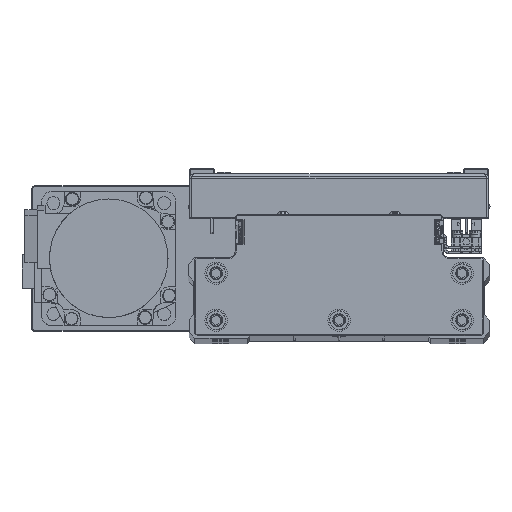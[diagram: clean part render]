
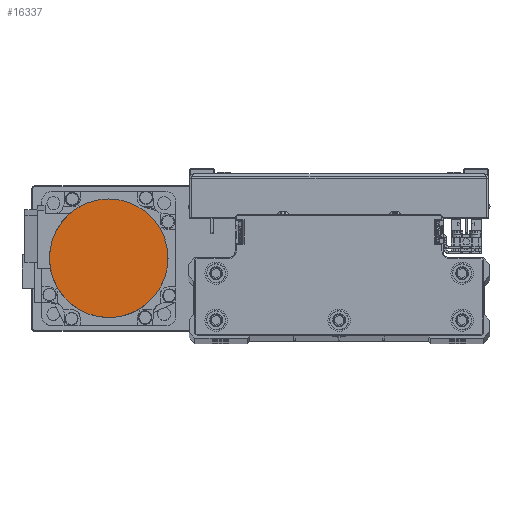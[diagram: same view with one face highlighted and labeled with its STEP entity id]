
A CAD part, top view. The second image highlights one B-rep face of the part: STEP entity #16337.
In plain terms, the highlighted planar face has unit normal (0, 0, 1) as drawn and (0, 0, -1) by its records, which use the part's own axes.
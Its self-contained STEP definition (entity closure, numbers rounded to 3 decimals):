
#959 = CARTESIAN_POINT ( 'NONE',  ( -11.744, -23.819, -109.7 ) ) ;
#1176 = CARTESIAN_POINT ( 'NONE',  ( 19.965, -17.512, -109.7 ) ) ;
#2229 = DIRECTION ( 'NONE',  ( 1., 0., 0. ) ) ;
#2549 = CARTESIAN_POINT ( 'NONE',  ( 16.165, 21.07, -109.7 ) ) ;
#2768 = CARTESIAN_POINT ( 'NONE',  ( -16.165, 21.07, -109.7 ) ) ;
#4387 = CARTESIAN_POINT ( 'NONE',  ( -17.512, -19.965, -109.7 ) ) ;
#4605 = CARTESIAN_POINT ( 'NONE',  ( 13.28, -22.998, -109.7 ) ) ;
#5656 = PLANE ( 'NONE',  #10702 ) ;
#5978 = CARTESIAN_POINT ( 'NONE',  ( 21.07, 16.165, -109.7 ) ) ;
#6206 = CARTESIAN_POINT ( 'NONE',  ( -8.539, 25.147, -109.7 ) ) ;
#6434 = CARTESIAN_POINT ( 'NONE',  ( -26.5, 0., -109.7 ) ) ;
#7834 = CARTESIAN_POINT ( 'NONE',  ( -22.998, -13.28, -109.7 ) ) ;
#8059 = CARTESIAN_POINT ( 'NONE',  ( 6.871, -25.652, -109.7 ) ) ;
#8280 = CARTESIAN_POINT ( 'NONE',  ( 26.5, -1.734, -109.7 ) ) ;
#9421 = CARTESIAN_POINT ( 'NONE',  ( 25.147, 8.539, -109.7 ) ) ;
#9645 = CARTESIAN_POINT ( 'NONE',  ( -1.734, 26.5, -109.7 ) ) ;
#9864 = CARTESIAN_POINT ( 'NONE',  ( -25.652, 6.871, -109.7 ) ) ;
#10702 = AXIS2_PLACEMENT_3D ( 'NONE', #19608, #33552, #2229 ) ;
#11257 = CARTESIAN_POINT ( 'NONE',  ( -25.652, -6.871, -109.7 ) ) ;
#11487 = CARTESIAN_POINT ( 'NONE',  ( -1.734, -26.5, -109.7 ) ) ;
#11717 = CARTESIAN_POINT ( 'NONE',  ( 25.147, -8.539, -109.7 ) ) ;
#12575 = CARTESIAN_POINT ( 'NONE',  ( 26.5, 0., -109.7 ) ) ;
#12741 = B_SPLINE_CURVE_WITH_KNOTS ( 'NONE', 3,
 ( #44138, #12857, #26788, #40726, #9421, #23365, #37312, #5978, #19929, #33870, #2549, #16501, #30432, #44367, #13088, #27013, #40959, #9645, #23583, #37530, #6206, #20151, #34100, #2768, #16731, #30661, #44595, #13310, #27233, #41179, #9864, #23809, #37758, #6434 ),
 .UNSPECIFIED., .F., .F.,
 ( 4, 2, 2, 2, 2, 2, 2, 2, 2, 2, 2, 2, 2, 2, 2, 2, 4 ),
 ( 0., 0.062, 0.125, 0.187, 0.25, 0.312, 0.375, 0.437, 0.5, 0.562, 0.625, 0.687, 0.75, 0.813, 0.875, 0.938, 1. ),
 .UNSPECIFIED. ) ;
#12857 = CARTESIAN_POINT ( 'NONE',  ( 26.5, 1.734, -109.7 ) ) ;
#13088 = CARTESIAN_POINT ( 'NONE',  ( 6.871, 25.652, -109.7 ) ) ;
#13310 = CARTESIAN_POINT ( 'NONE',  ( -22.998, 13.28, -109.7 ) ) ;
#14693 = CARTESIAN_POINT ( 'NONE',  ( -26.5, 0., -109.7 ) ) ;
#14914 = CARTESIAN_POINT ( 'NONE',  ( -8.539, -25.147, -109.7 ) ) ;
#15143 = CARTESIAN_POINT ( 'NONE',  ( 21.07, -16.165, -109.7 ) ) ;
#16337 = ADVANCED_FACE ( 'NONE', ( #36981 ), #5656, .F. ) ;
#16501 = CARTESIAN_POINT ( 'NONE',  ( 13.28, 22.998, -109.7 ) ) ;
#16731 = CARTESIAN_POINT ( 'NONE',  ( -17.512, 19.965, -109.7 ) ) ;
#16994 = CARTESIAN_POINT ( 'NONE',  ( -26.5, 0., -109.7 ) ) ;
#18347 = CARTESIAN_POINT ( 'NONE',  ( -16.165, -21.07, -109.7 ) ) ;
#18564 = CARTESIAN_POINT ( 'NONE',  ( 16.165, -21.07, -109.7 ) ) ;
#19608 = CARTESIAN_POINT ( 'NONE',  ( 0., 0., -109.7 ) ) ;
#19929 = CARTESIAN_POINT ( 'NONE',  ( 19.965, 17.512, -109.7 ) ) ;
#20151 = CARTESIAN_POINT ( 'NONE',  ( -11.744, 23.819, -109.7 ) ) ;
#21777 = CARTESIAN_POINT ( 'NONE',  ( -21.07, -16.165, -109.7 ) ) ;
#21999 = CARTESIAN_POINT ( 'NONE',  ( 8.539, -25.147, -109.7 ) ) ;
#22223 = CARTESIAN_POINT ( 'NONE',  ( 26.5, 0., -109.7 ) ) ;
#23365 = CARTESIAN_POINT ( 'NONE',  ( 23.819, 11.744, -109.7 ) ) ;
#23583 = CARTESIAN_POINT ( 'NONE',  ( -3.469, 26.329, -109.7 ) ) ;
#23809 = CARTESIAN_POINT ( 'NONE',  ( -26.329, 3.469, -109.7 ) ) ;
#25000 = VERTEX_POINT ( 'NONE', #16994 ) ;
#25199 = CARTESIAN_POINT ( 'NONE',  ( -25.147, -8.539, -109.7 ) ) ;
#25209 = B_SPLINE_CURVE_WITH_KNOTS ( 'NONE', 3,
 ( #14693, #28625, #42556, #11257, #25199, #39138, #7834, #21777, #35716, #4387, #18347, #32279, #959, #14914, #28844, #42780, #11487, #25426, #39364, #8059, #21999, #35937, #4605, #18564, #32505, #1176, #15143, #29074, #43005, #11717, #25653, #39586, #8280, #22223 ),
 .UNSPECIFIED., .F., .F.,
 ( 4, 2, 2, 2, 2, 2, 2, 2, 2, 2, 2, 2, 2, 2, 2, 2, 4 ),
 ( 0., 0.063, 0.125, 0.188, 0.25, 0.312, 0.375, 0.437, 0.5, 0.562, 0.625, 0.687, 0.75, 0.813, 0.875, 0.938, 1. ),
 .UNSPECIFIED. ) ;
#25426 = CARTESIAN_POINT ( 'NONE',  ( 1.734, -26.5, -109.7 ) ) ;
#25653 = CARTESIAN_POINT ( 'NONE',  ( 25.652, -6.871, -109.7 ) ) ;
#26788 = CARTESIAN_POINT ( 'NONE',  ( 26.329, 3.469, -109.7 ) ) ;
#27013 = CARTESIAN_POINT ( 'NONE',  ( 3.469, 26.329, -109.7 ) ) ;
#27233 = CARTESIAN_POINT ( 'NONE',  ( -23.819, 11.744, -109.7 ) ) ;
#28625 = CARTESIAN_POINT ( 'NONE',  ( -26.5, -1.734, -109.7 ) ) ;
#28635 = ORIENTED_EDGE ( 'NONE', *, *, #28789, .F. ) ;
#28789 = EDGE_CURVE ( 'NONE', #25000, #29365, #25209, .T. ) ;
#28844 = CARTESIAN_POINT ( 'NONE',  ( -6.871, -25.652, -109.7 ) ) ;
#29043 = EDGE_LOOP ( 'NONE', ( #29566, #28635 ) ) ;
#29074 = CARTESIAN_POINT ( 'NONE',  ( 22.998, -13.28, -109.7 ) ) ;
#29365 = VERTEX_POINT ( 'NONE', #12575 ) ;
#29566 = ORIENTED_EDGE ( 'NONE', *, *, #38659, .F. ) ;
#30432 = CARTESIAN_POINT ( 'NONE',  ( 11.744, 23.819, -109.7 ) ) ;
#30661 = CARTESIAN_POINT ( 'NONE',  ( -19.965, 17.512, -109.7 ) ) ;
#32279 = CARTESIAN_POINT ( 'NONE',  ( -13.28, -22.998, -109.7 ) ) ;
#32505 = CARTESIAN_POINT ( 'NONE',  ( 17.512, -19.965, -109.7 ) ) ;
#33552 = DIRECTION ( 'NONE',  ( 0., 0., 1. ) ) ;
#33870 = CARTESIAN_POINT ( 'NONE',  ( 17.512, 19.965, -109.7 ) ) ;
#34100 = CARTESIAN_POINT ( 'NONE',  ( -13.28, 22.998, -109.7 ) ) ;
#35716 = CARTESIAN_POINT ( 'NONE',  ( -19.965, -17.512, -109.7 ) ) ;
#35937 = CARTESIAN_POINT ( 'NONE',  ( 11.744, -23.819, -109.7 ) ) ;
#36981 = FACE_OUTER_BOUND ( 'NONE', #29043, .T. ) ;
#37312 = CARTESIAN_POINT ( 'NONE',  ( 22.998, 13.28, -109.7 ) ) ;
#37530 = CARTESIAN_POINT ( 'NONE',  ( -6.871, 25.652, -109.7 ) ) ;
#37758 = CARTESIAN_POINT ( 'NONE',  ( -26.5, 1.734, -109.7 ) ) ;
#38659 = EDGE_CURVE ( 'NONE', #29365, #25000, #12741, .T. ) ;
#39138 = CARTESIAN_POINT ( 'NONE',  ( -23.819, -11.744, -109.7 ) ) ;
#39364 = CARTESIAN_POINT ( 'NONE',  ( 3.469, -26.329, -109.7 ) ) ;
#39586 = CARTESIAN_POINT ( 'NONE',  ( 26.329, -3.469, -109.7 ) ) ;
#40726 = CARTESIAN_POINT ( 'NONE',  ( 25.652, 6.871, -109.7 ) ) ;
#40959 = CARTESIAN_POINT ( 'NONE',  ( 1.734, 26.5, -109.7 ) ) ;
#41179 = CARTESIAN_POINT ( 'NONE',  ( -25.147, 8.539, -109.7 ) ) ;
#42556 = CARTESIAN_POINT ( 'NONE',  ( -26.329, -3.469, -109.7 ) ) ;
#42780 = CARTESIAN_POINT ( 'NONE',  ( -3.469, -26.329, -109.7 ) ) ;
#43005 = CARTESIAN_POINT ( 'NONE',  ( 23.819, -11.744, -109.7 ) ) ;
#44138 = CARTESIAN_POINT ( 'NONE',  ( 26.5, 0., -109.7 ) ) ;
#44367 = CARTESIAN_POINT ( 'NONE',  ( 8.539, 25.147, -109.7 ) ) ;
#44595 = CARTESIAN_POINT ( 'NONE',  ( -21.07, 16.165, -109.7 ) ) ;
